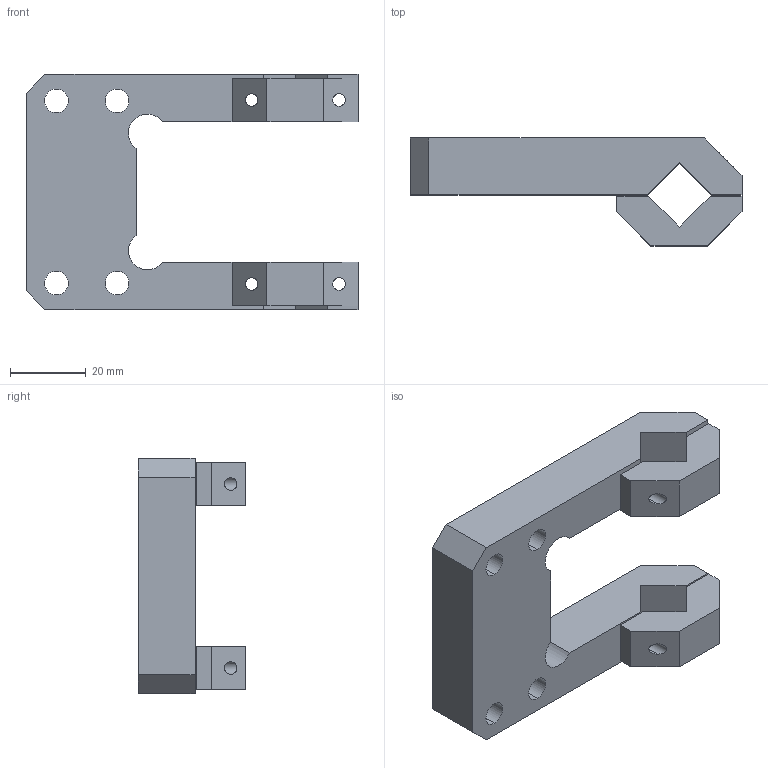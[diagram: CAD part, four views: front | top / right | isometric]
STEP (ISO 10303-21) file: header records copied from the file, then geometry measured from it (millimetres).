
FILE_DESCRIPTION (( 'STEP AP203' ), '1' );
FILE_NAME ('BC-32-ML.STEP', '2017-02-15T11:49:16', ( '' ), ( '' ), 'SwSTEP 2.0', 'SolidWorks 2012', '' );
FILE_SCHEMA (( 'CONFIG_CONTROL_DESIGN' ));
Length unit declared in the file: millimetre
Products named in the file (1): BC-32-ML
Bounding box: 87.5 x 28.38 x 62 mm (x, y, z)
Volume: 47699.1 mm3; surface area: 17320.7 mm2
Topology: 3 solids, 3 shells, 81 faces, 213 edges, 142 vertices
Faces by surface type: plane 46, cylinder 35
Entity records: 2626 total; most frequent: CARTESIAN_POINT 473, ORIENTED_EDGE 426, DIRECTION 423, EDGE_CURVE 213, LINE 143, VECTOR 143, VERTEX_POINT 142, AXIS2_PLACEMENT_3D 140
